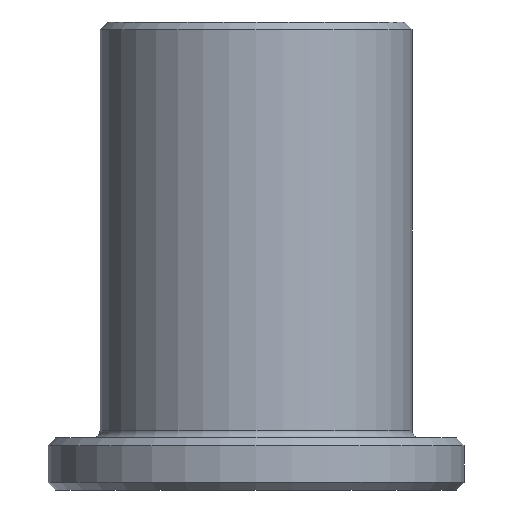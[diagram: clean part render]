
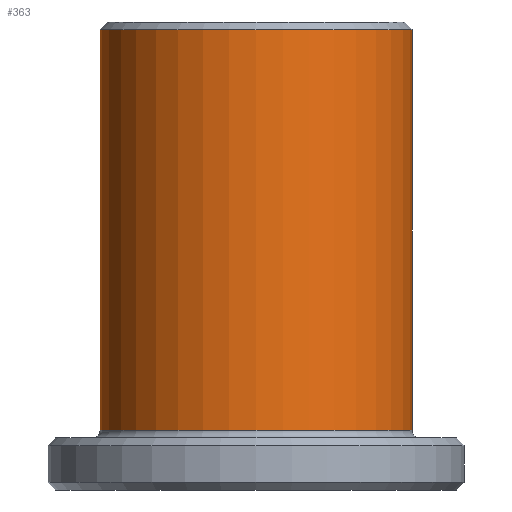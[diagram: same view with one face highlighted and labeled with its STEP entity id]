
A CAD part, front view. The second image highlights one B-rep face of the part: STEP entity #363.
In plain terms, the highlighted cylindrical face has radius 6 mm (diameter 12 mm), a partial arc.
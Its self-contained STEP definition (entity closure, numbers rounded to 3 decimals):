
#1 = EDGE_CURVE ( 'NONE', #122, #427, #133, .T. ) ;
#71 = EDGE_CURVE ( 'NONE', #545, #276, #340, .T. ) ;
#95 = EDGE_CURVE ( 'NONE', #122, #545, #170, .T. ) ;
#106 = CARTESIAN_POINT ( 'NONE',  ( 0., 0., -0.3 ) ) ;
#114 = FACE_OUTER_BOUND ( 'NONE', #542, .T. ) ;
#121 = CARTESIAN_POINT ( 'NONE',  ( 6., 0., -0.3 ) ) ;
#122 = VERTEX_POINT ( 'NONE', #343 ) ;
#133 = LINE ( 'NONE', #302, #149 ) ;
#149 = VECTOR ( 'NONE', #187, 1000. ) ;
#157 = ORIENTED_EDGE ( 'NONE', *, *, #321, .T. ) ;
#164 = VECTOR ( 'NONE', #227, 1000. ) ;
#170 = CIRCLE ( 'NONE', #436, 6. ) ;
#178 = CARTESIAN_POINT ( 'NONE',  ( 6., 0., 0. ) ) ;
#187 = DIRECTION ( 'NONE',  ( 0., 0., 1. ) ) ;
#215 = ORIENTED_EDGE ( 'NONE', *, *, #71, .T. ) ;
#218 = CYLINDRICAL_SURFACE ( 'NONE', #411, 6. ) ;
#221 = ORIENTED_EDGE ( 'NONE', *, *, #95, .T. ) ;
#226 = AXIS2_PLACEMENT_3D ( 'NONE', #106, #394, #585 ) ;
#227 = DIRECTION ( 'NONE',  ( 0., 0., 1. ) ) ;
#274 = ORIENTED_EDGE ( 'NONE', *, *, #1, .F. ) ;
#276 = VERTEX_POINT ( 'NONE', #121 ) ;
#302 = CARTESIAN_POINT ( 'NONE',  ( -6., 0., 0. ) ) ;
#312 = DIRECTION ( 'NONE',  ( 1., 0., 0. ) ) ;
#321 = EDGE_CURVE ( 'NONE', #276, #427, #398, .T. ) ;
#340 = LINE ( 'NONE', #178, #164 ) ;
#343 = CARTESIAN_POINT ( 'NONE',  ( -6., 0., -15.7 ) ) ;
#363 = ADVANCED_FACE ( 'NONE', ( #114 ), #218, .T. ) ;
#378 = DIRECTION ( 'NONE',  ( 0., 0., 1. ) ) ;
#394 = DIRECTION ( 'NONE',  ( 0., 0., -1. ) ) ;
#398 = CIRCLE ( 'NONE', #226, 6. ) ;
#403 = CARTESIAN_POINT ( 'NONE',  ( 6., 0., -15.7 ) ) ;
#404 = CARTESIAN_POINT ( 'NONE',  ( -6., 0., -0.3 ) ) ;
#411 = AXIS2_PLACEMENT_3D ( 'NONE', #421, #567, #312 ) ;
#421 = CARTESIAN_POINT ( 'NONE',  ( 0., 0., 0. ) ) ;
#424 = DIRECTION ( 'NONE',  ( 1., 0., 0. ) ) ;
#427 = VERTEX_POINT ( 'NONE', #404 ) ;
#430 = CARTESIAN_POINT ( 'NONE',  ( 0., 0., -15.7 ) ) ;
#436 = AXIS2_PLACEMENT_3D ( 'NONE', #430, #378, #424 ) ;
#542 = EDGE_LOOP ( 'NONE', ( #274, #221, #215, #157 ) ) ;
#545 = VERTEX_POINT ( 'NONE', #403 ) ;
#567 = DIRECTION ( 'NONE',  ( 0., 0., 1. ) ) ;
#585 = DIRECTION ( 'NONE',  ( 1., 0., 0. ) ) ;
